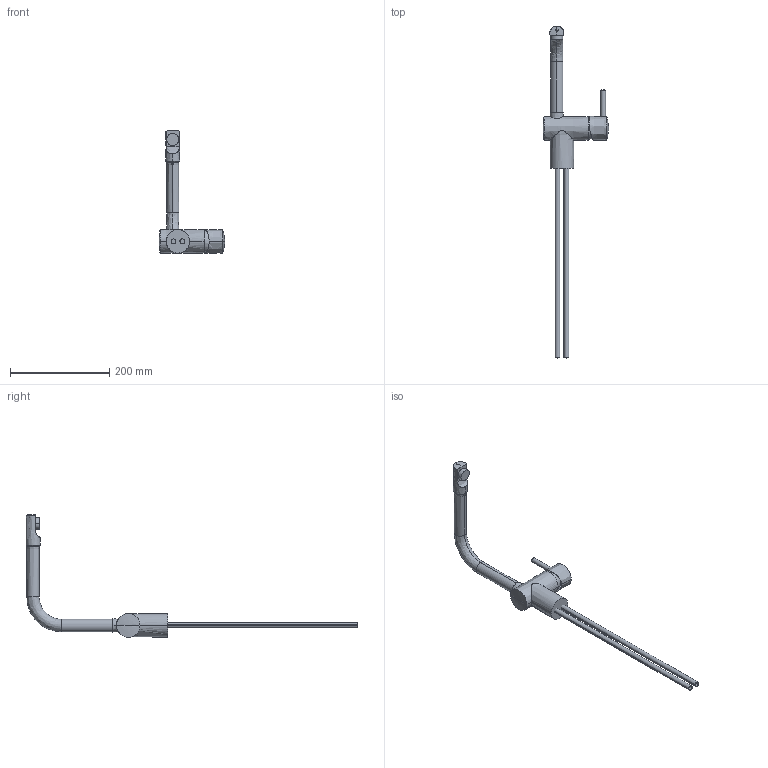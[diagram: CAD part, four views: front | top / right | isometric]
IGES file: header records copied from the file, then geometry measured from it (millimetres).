
Start section:  PTC IGES file: 18121_web.igs
Global section: file name: 18121_web.igs; native system: Creo Parametric by PTC Inc.; preprocessor: 2017380; author: jaj; organization: Unknown; date: 20180705.114538; units: millimetre
Bounding box: 131.5 x 668.2 x 247.26 mm (x, y, z)
Surface area: 118880.7 mm2 (no closed solid volume)
Topology: 0 solids, 0 shells, 58 faces, 372 edges, 416 vertices
Faces by surface type: revolution 52, bspline 6
